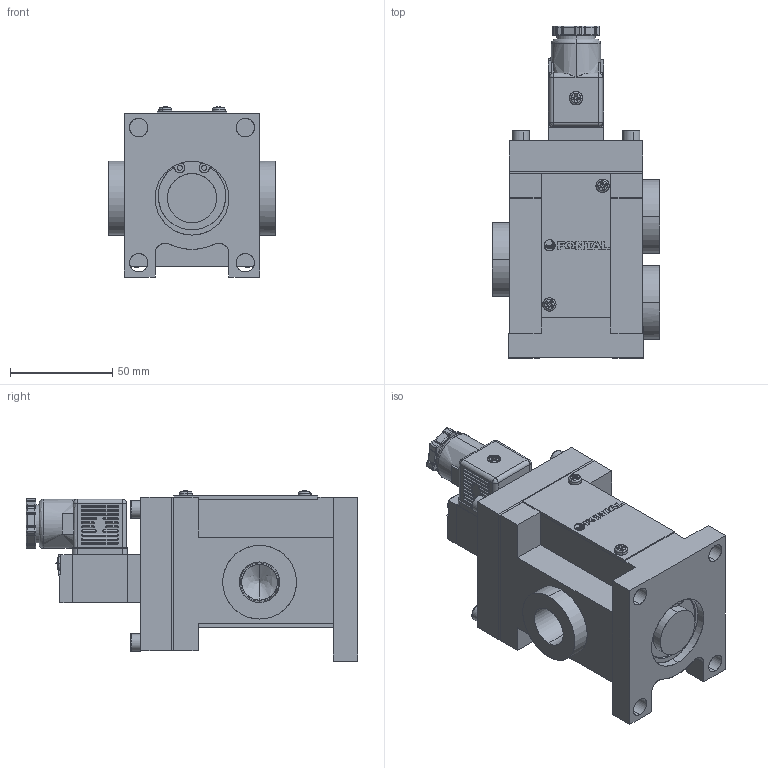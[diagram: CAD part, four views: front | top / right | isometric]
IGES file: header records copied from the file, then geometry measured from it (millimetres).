
Start section: SolidWorks IGES file using analytic representation for surfaces
Global section: file name: D:\Custom\3D繪製\PM\PM15\PMS2315#-04-#C#.IGS,1; native system: 5HSolidWorks 2014; preprocessor: SolidWorks 2014; author: Chieh_Lu; date: 151222.134719; units: millimetre
Bounding box: 82 x 162 x 83.05 mm (x, y, z)
Surface area: 97980.3 mm2 (no closed solid volume)
Topology: 0 solids, 0 shells, 989 faces, 9724 edges, 9572 vertices
Faces by surface type: revolution 508, bspline 481
